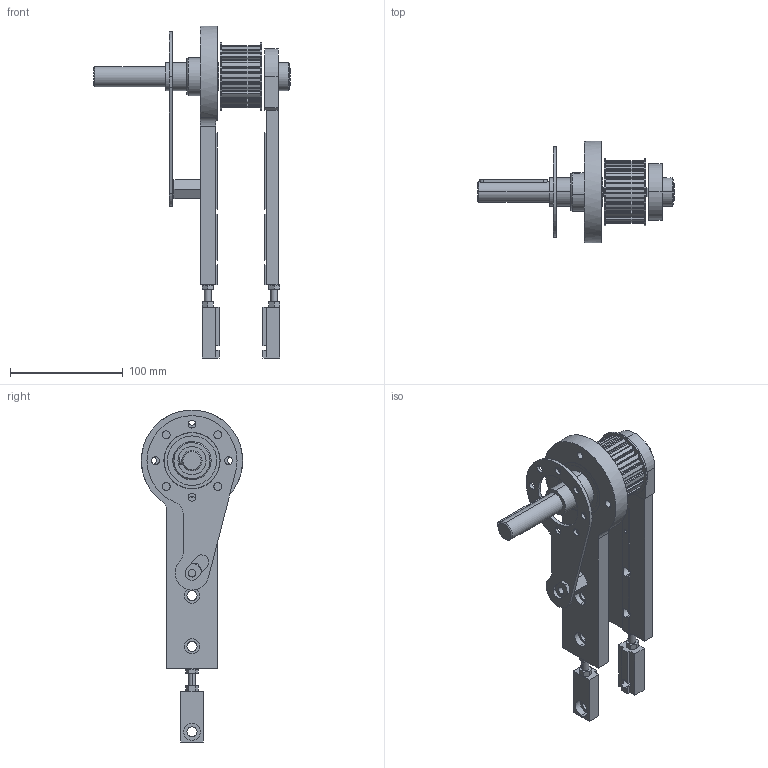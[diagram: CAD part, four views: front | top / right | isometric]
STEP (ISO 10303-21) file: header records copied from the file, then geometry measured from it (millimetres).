
FILE_DESCRIPTION (( 'STEP AP203' ), '1' );
FILE_NAME ('084.050.KDT.44.032.STEP', '2015-04-10T14:13:02', ( '' ), ( '' ), 'SwSTEP 2.0', 'SolidWorks 2012', '' );
FILE_SCHEMA (( 'CONFIG_CONTROL_DESIGN' ));
Length unit declared in the file: millimetre
Products named in the file (1): 084.050.KDT.44.032
Bounding box: 175 x 90 x 295 mm (x, y, z)
Surface area: 110187.5 mm2 (no closed solid volume)
Topology: 0 solids, 19 shells, 409 faces, 1199 edges, 813 vertices
Faces by surface type: cylinder 210, plane 184, cone 13, sphere 2
Entity records: 14298 total; most frequent: CARTESIAN_POINT 2928, DIRECTION 2470, ORIENTED_EDGE 2263, EDGE_CURVE 1194, AXIS2_PLACEMENT_3D 908, VERTEX_POINT 810, LINE 654, VECTOR 654
